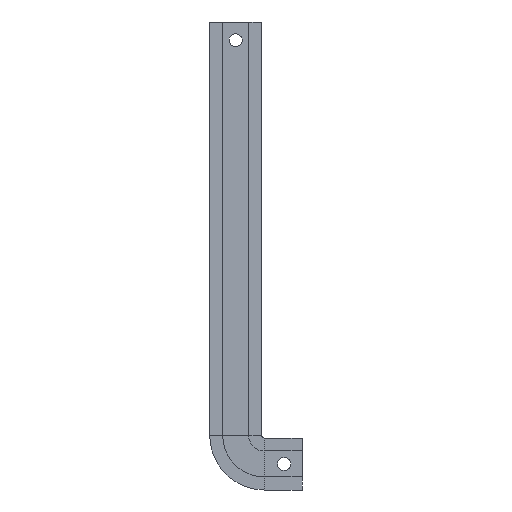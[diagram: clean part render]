
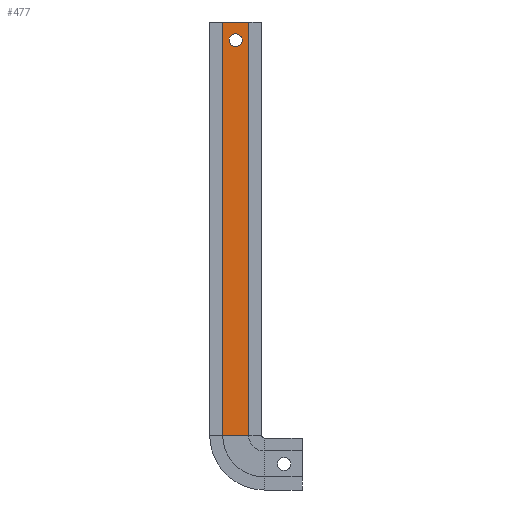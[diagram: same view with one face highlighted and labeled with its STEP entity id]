
A CAD part, front view. The second image highlights one B-rep face of the part: STEP entity #477.
In plain terms, the highlighted planar face has unit normal (0, -1, 0).
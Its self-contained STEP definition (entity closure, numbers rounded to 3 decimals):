
#3 = CARTESIAN_POINT ( 'NONE',  ( 148.836, 0.637, 272.781 ) ) ;
#9 = VERTEX_POINT ( 'NONE', #385 ) ;
#40 = VECTOR ( 'NONE', #436, 1000. ) ;
#43 = DIRECTION ( 'NONE',  ( 0., 1., 0. ) ) ;
#45 = EDGE_CURVE ( 'NONE', #451, #64, #851, .T. ) ;
#64 = VERTEX_POINT ( 'NONE', #488 ) ;
#67 = ORIENTED_EDGE ( 'NONE', *, *, #612, .T. ) ;
#86 = LINE ( 'NONE', #682, #922 ) ;
#94 = LINE ( 'NONE', #945, #40 ) ;
#100 = VECTOR ( 'NONE', #803, 1000. ) ;
#111 = AXIS2_PLACEMENT_3D ( 'NONE', #213, #43, #674 ) ;
#144 = ORIENTED_EDGE ( 'NONE', *, *, #1015, .F. ) ;
#161 = EDGE_CURVE ( 'NONE', #906, #9, #86, .T. ) ;
#170 = FACE_BOUND ( 'NONE', #313, .T. ) ;
#171 = ORIENTED_EDGE ( 'NONE', *, *, #525, .T. ) ;
#213 = CARTESIAN_POINT ( 'NONE',  ( 146.336, 0.637, 272.781 ) ) ;
#233 = CARTESIAN_POINT ( 'NONE',  ( 141.336, 0.637, 279.781 ) ) ;
#294 = VERTEX_POINT ( 'NONE', #1039 ) ;
#305 = CIRCLE ( 'NONE', #357, 2.5 ) ;
#313 = EDGE_LOOP ( 'NONE', ( #537, #884 ) ) ;
#335 = DIRECTION ( 'NONE',  ( 0., 1., 0. ) ) ;
#357 = AXIS2_PLACEMENT_3D ( 'NONE', #441, #780, #518 ) ;
#368 = VERTEX_POINT ( 'NONE', #984 ) ;
#385 = CARTESIAN_POINT ( 'NONE',  ( 151.336, 0.637, 120.781 ) ) ;
#417 = LINE ( 'NONE', #603, #847 ) ;
#436 = DIRECTION ( 'NONE',  ( 1., 0., 0. ) ) ;
#441 = CARTESIAN_POINT ( 'NONE',  ( 146.336, 0.637, 272.781 ) ) ;
#451 = VERTEX_POINT ( 'NONE', #3 ) ;
#477 = ADVANCED_FACE ( 'NONE', ( #170, #677 ), #489, .F. ) ;
#488 = CARTESIAN_POINT ( 'NONE',  ( 143.836, 0.637, 272.781 ) ) ;
#489 = PLANE ( 'NONE',  #989 ) ;
#503 = EDGE_CURVE ( 'NONE', #64, #451, #305, .T. ) ;
#518 = DIRECTION ( 'NONE',  ( -1., 0., 0. ) ) ;
#525 = EDGE_CURVE ( 'NONE', #368, #9, #94, .T. ) ;
#537 = ORIENTED_EDGE ( 'NONE', *, *, #503, .T. ) ;
#581 = ORIENTED_EDGE ( 'NONE', *, *, #161, .F. ) ;
#603 = CARTESIAN_POINT ( 'NONE',  ( 141.336, 0.637, 279.781 ) ) ;
#612 = EDGE_CURVE ( 'NONE', #294, #368, #966, .T. ) ;
#615 = CARTESIAN_POINT ( 'NONE',  ( 141.336, 0.637, 279.781 ) ) ;
#674 = DIRECTION ( 'NONE',  ( -1., 0., 0. ) ) ;
#677 = FACE_OUTER_BOUND ( 'NONE', #865, .T. ) ;
#682 = CARTESIAN_POINT ( 'NONE',  ( 151.336, 0.637, 279.781 ) ) ;
#732 = DIRECTION ( 'NONE',  ( -1., 0., 0. ) ) ;
#780 = DIRECTION ( 'NONE',  ( 0., 1., 0. ) ) ;
#803 = DIRECTION ( 'NONE',  ( 0., 0., -1. ) ) ;
#839 = CARTESIAN_POINT ( 'NONE',  ( 151.336, 0.637, 279.781 ) ) ;
#847 = VECTOR ( 'NONE', #940, 1000. ) ;
#851 = CIRCLE ( 'NONE', #111, 2.5 ) ;
#865 = EDGE_LOOP ( 'NONE', ( #581, #144, #67, #171 ) ) ;
#884 = ORIENTED_EDGE ( 'NONE', *, *, #45, .T. ) ;
#906 = VERTEX_POINT ( 'NONE', #839 ) ;
#922 = VECTOR ( 'NONE', #1013, 1000. ) ;
#940 = DIRECTION ( 'NONE',  ( 1., 0., 0. ) ) ;
#945 = CARTESIAN_POINT ( 'NONE',  ( 141.336, 0.637, 120.781 ) ) ;
#966 = LINE ( 'NONE', #615, #100 ) ;
#984 = CARTESIAN_POINT ( 'NONE',  ( 141.336, 0.637, 120.781 ) ) ;
#989 = AXIS2_PLACEMENT_3D ( 'NONE', #233, #335, #732 ) ;
#1013 = DIRECTION ( 'NONE',  ( 0., 0., -1. ) ) ;
#1015 = EDGE_CURVE ( 'NONE', #294, #906, #417, .T. ) ;
#1039 = CARTESIAN_POINT ( 'NONE',  ( 141.336, 0.637, 279.781 ) ) ;
